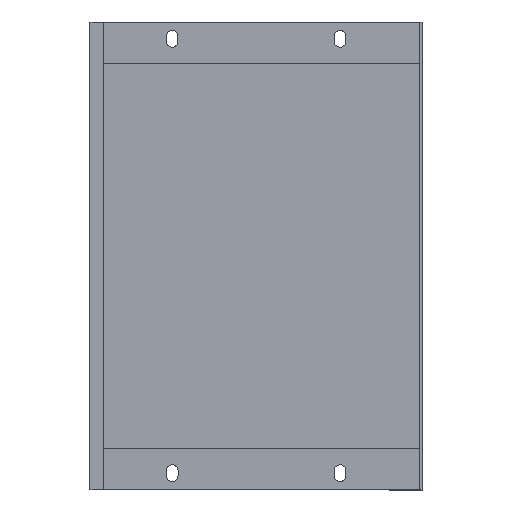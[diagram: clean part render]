
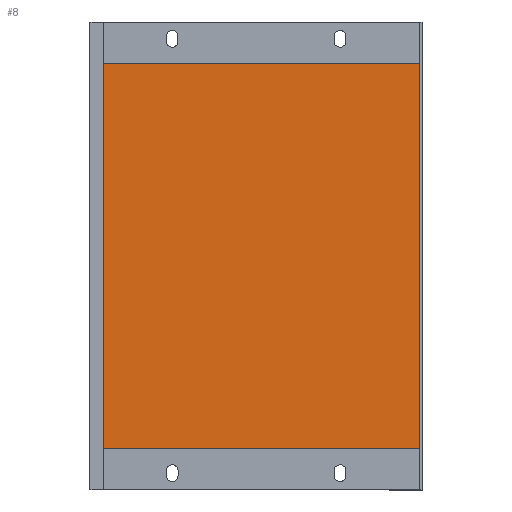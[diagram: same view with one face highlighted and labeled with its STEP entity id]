
A CAD part, front view. The second image highlights one B-rep face of the part: STEP entity #8.
In plain terms, the highlighted planar face has unit normal (0, -1, 0).
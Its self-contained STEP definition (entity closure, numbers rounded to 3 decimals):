
#8 = ADVANCED_FACE ( 'NONE', ( #310 ), #1050, .F. ) ;
#33 = ORIENTED_EDGE ( 'NONE', *, *, #41, .T. ) ;
#41 = EDGE_CURVE ( 'NONE', #1530, #199, #1205, .T. ) ;
#115 = DIRECTION ( 'NONE',  ( 0., 0., -1. ) ) ;
#199 = VERTEX_POINT ( 'NONE', #880 ) ;
#258 = EDGE_CURVE ( 'NONE', #1389, #1260, #538, .T. ) ;
#310 = FACE_OUTER_BOUND ( 'NONE', #864, .T. ) ;
#395 = CARTESIAN_POINT ( 'NONE',  ( 188.6, 61.1, 279. ) ) ;
#442 = EDGE_CURVE ( 'NONE', #199, #1389, #563, .T. ) ;
#537 = ORIENTED_EDGE ( 'NONE', *, *, #570, .F. ) ;
#538 = LINE ( 'NONE', #1419, #1486 ) ;
#544 = LINE ( 'NONE', #395, #671 ) ;
#563 = LINE ( 'NONE', #1095, #1563 ) ;
#570 = EDGE_CURVE ( 'NONE', #1530, #1260, #544, .T. ) ;
#589 = VECTOR ( 'NONE', #810, 1000. ) ;
#671 = VECTOR ( 'NONE', #1275, 1000. ) ;
#749 = CARTESIAN_POINT ( 'NONE',  ( -6.6, 61.1, 25. ) ) ;
#798 = DIRECTION ( 'NONE',  ( 1., 0., 0. ) ) ;
#810 = DIRECTION ( 'NONE',  ( -1., 0., 0. ) ) ;
#864 = EDGE_LOOP ( 'NONE', ( #33, #1119, #1168, #537 ) ) ;
#880 = CARTESIAN_POINT ( 'NONE',  ( -6.6, 61.1, 254. ) ) ;
#968 = CARTESIAN_POINT ( 'NONE',  ( 0., 61.1, 254. ) ) ;
#1050 = PLANE ( 'NONE',  #1121 ) ;
#1095 = CARTESIAN_POINT ( 'NONE',  ( -6.6, 61.1, 279. ) ) ;
#1119 = ORIENTED_EDGE ( 'NONE', *, *, #442, .T. ) ;
#1121 = AXIS2_PLACEMENT_3D ( 'NONE', #1448, #1459, #1553 ) ;
#1168 = ORIENTED_EDGE ( 'NONE', *, *, #258, .T. ) ;
#1205 = LINE ( 'NONE', #968, #589 ) ;
#1260 = VERTEX_POINT ( 'NONE', #1467 ) ;
#1275 = DIRECTION ( 'NONE',  ( 0., 0., -1. ) ) ;
#1309 = CARTESIAN_POINT ( 'NONE',  ( 188.6, 61.1, 254. ) ) ;
#1389 = VERTEX_POINT ( 'NONE', #749 ) ;
#1419 = CARTESIAN_POINT ( 'NONE',  ( 0., 61.1, 25. ) ) ;
#1448 = CARTESIAN_POINT ( 'NONE',  ( -8., 61.1, 279. ) ) ;
#1459 = DIRECTION ( 'NONE',  ( 0., 1., 0. ) ) ;
#1467 = CARTESIAN_POINT ( 'NONE',  ( 188.6, 61.1, 25. ) ) ;
#1486 = VECTOR ( 'NONE', #798, 1000. ) ;
#1530 = VERTEX_POINT ( 'NONE', #1309 ) ;
#1553 = DIRECTION ( 'NONE',  ( 0., 0., 1. ) ) ;
#1563 = VECTOR ( 'NONE', #115, 1000. ) ;
